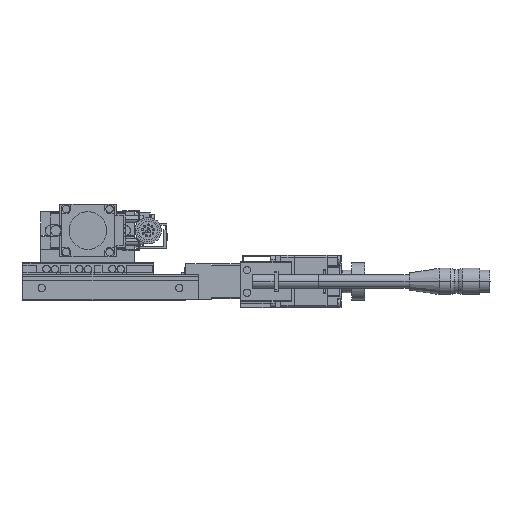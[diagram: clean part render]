
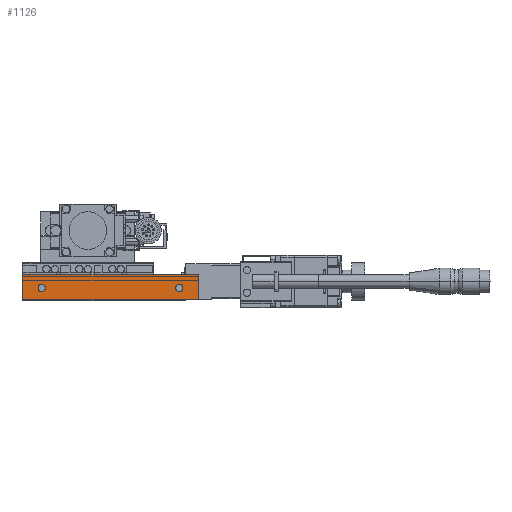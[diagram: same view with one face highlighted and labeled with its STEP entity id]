
A CAD part, front view. The second image highlights one B-rep face of the part: STEP entity #1126.
In plain terms, the highlighted planar face has unit normal (0, -1, 0).
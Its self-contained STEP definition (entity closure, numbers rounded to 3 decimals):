
#1126=ADVANCED_FACE('',(#3240,#3241,#3242),#3243,.F.);
#3240=FACE_BOUND('',#6616,.T.);
#3241=FACE_BOUND('',#6617,.T.);
#3242=FACE_OUTER_BOUND('',#6618,.T.);
#3243=PLANE('',#6619);
#6616=EDGE_LOOP('',(#12781,#12782));
#6617=EDGE_LOOP('',(#12783,#12784));
#6618=EDGE_LOOP('',(#12785,#12786,#12787,#12788));
#6619=AXIS2_PLACEMENT_3D('',#12789,#12790,#12791);
#12781=ORIENTED_EDGE('',*,*,#22766,.T.);
#12782=ORIENTED_EDGE('',*,*,#22735,.T.);
#12783=ORIENTED_EDGE('',*,*,#22767,.T.);
#12784=ORIENTED_EDGE('',*,*,#22739,.T.);
#12785=ORIENTED_EDGE('',*,*,#22768,.T.);
#12786=ORIENTED_EDGE('',*,*,#22769,.F.);
#12787=ORIENTED_EDGE('',*,*,#22770,.F.);
#12788=ORIENTED_EDGE('',*,*,#22763,.T.);
#12789=CARTESIAN_POINT('',(58.5,-41.8,13.5));
#12790=DIRECTION('',(0.,1.0,0.));
#12791=DIRECTION('',(0.,0.,-1.0));
#22735=EDGE_CURVE('',#27376,#27380,#27382,.T.);
#22739=EDGE_CURVE('',#27384,#27388,#27390,.T.);
#22763=EDGE_CURVE('',#27434,#27432,#27435,.T.);
#22766=EDGE_CURVE('',#27380,#27376,#27439,.T.);
#22767=EDGE_CURVE('',#27388,#27384,#27440,.T.);
#22768=EDGE_CURVE('',#27432,#27441,#27442,.T.);
#22769=EDGE_CURVE('',#27443,#27441,#27444,.T.);
#22770=EDGE_CURVE('',#27434,#27443,#27445,.T.);
#27376=VERTEX_POINT('',#34570);
#27380=VERTEX_POINT('',#34575);
#27382=CIRCLE('',#34578,1.95);
#27384=VERTEX_POINT('',#34580);
#27388=VERTEX_POINT('',#34585);
#27390=CIRCLE('',#34588,1.95);
#27432=VERTEX_POINT('',#34644);
#27434=VERTEX_POINT('',#34647);
#27435=LINE('',#34648,#34649);
#27439=CIRCLE('',#34655,1.95);
#27440=CIRCLE('',#34656,1.95);
#27441=VERTEX_POINT('',#34657);
#27442=LINE('',#34658,#34659);
#27443=VERTEX_POINT('',#34660);
#27444=LINE('',#34661,#34662);
#27445=LINE('',#34663,#34664);
#34570=CARTESIAN_POINT('',(-22.55,-41.8,6.5));
#34575=CARTESIAN_POINT('',(-26.45,-41.8,6.5));
#34578=AXIS2_PLACEMENT_3D('',#43325,#43326,#43327);
#34580=CARTESIAN_POINT('',(50.45,-41.8,6.5));
#34585=CARTESIAN_POINT('',(46.55,-41.8,6.5));
#34588=AXIS2_PLACEMENT_3D('',#43333,#43334,#43335);
#34644=CARTESIAN_POINT('',(-34.5,-41.8,13.5));
#34647=CARTESIAN_POINT('',(58.5,-41.8,13.5));
#34648=CARTESIAN_POINT('',(58.5,-41.8,13.5));
#34649=VECTOR('',#43375,1000.0);
#34655=AXIS2_PLACEMENT_3D('',#43378,#43379,#43380);
#34656=AXIS2_PLACEMENT_3D('',#43381,#43382,#43383);
#34657=CARTESIAN_POINT('',(-34.5,-41.8,0.5));
#34658=CARTESIAN_POINT('',(-34.5,-41.8,13.5));
#34659=VECTOR('',#43384,1000.0);
#34660=CARTESIAN_POINT('',(58.5,-41.8,0.5));
#34661=CARTESIAN_POINT('',(58.5,-41.8,0.5));
#34662=VECTOR('',#43385,1000.0);
#34663=CARTESIAN_POINT('',(58.5,-41.8,13.5));
#34664=VECTOR('',#43386,1000.0);
#43325=CARTESIAN_POINT('',(-24.5,-41.8,6.5));
#43326=DIRECTION('',(0.,1.0,0.));
#43327=DIRECTION('',(-1.0,0.,0.));
#43333=CARTESIAN_POINT('',(48.5,-41.8,6.5));
#43334=DIRECTION('',(0.,1.0,0.));
#43335=DIRECTION('',(-1.0,0.,0.));
#43375=DIRECTION('',(-1.0,0.,0.));
#43378=CARTESIAN_POINT('',(-24.5,-41.8,6.5));
#43379=DIRECTION('',(0.,1.0,0.));
#43380=DIRECTION('',(-1.0,0.,0.));
#43381=CARTESIAN_POINT('',(48.5,-41.8,6.5));
#43382=DIRECTION('',(0.,1.0,0.));
#43383=DIRECTION('',(-1.0,0.,0.));
#43384=DIRECTION('',(0.,0.,-1.0));
#43385=DIRECTION('',(-1.0,0.,0.));
#43386=DIRECTION('',(0.,0.,-1.0));
